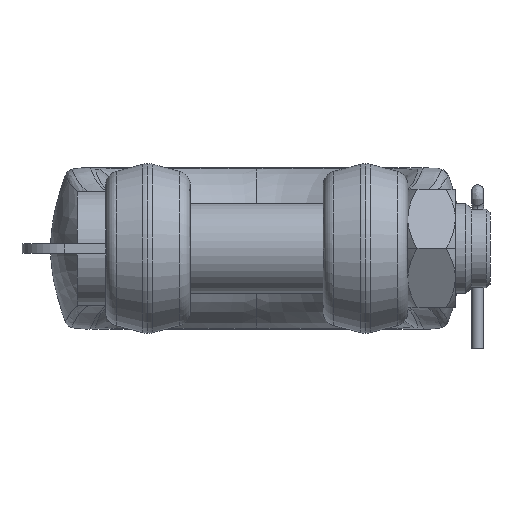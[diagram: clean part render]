
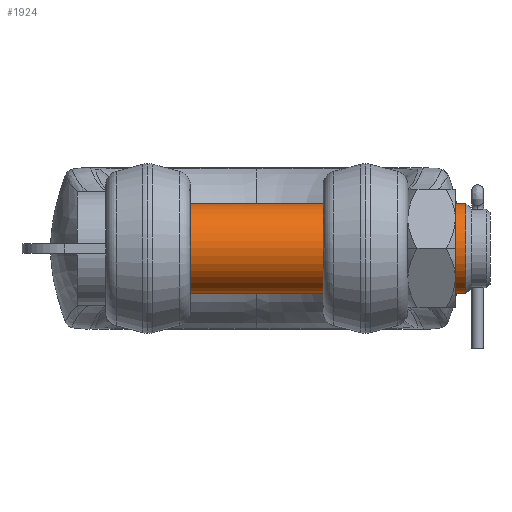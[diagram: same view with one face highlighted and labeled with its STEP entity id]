
A CAD part, front view. The second image highlights one B-rep face of the part: STEP entity #1924.
In plain terms, the highlighted cylindrical face has radius 47.5 mm (diameter 95 mm), a partial arc.
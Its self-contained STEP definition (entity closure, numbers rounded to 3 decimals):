
#1924=ADVANCED_FACE('',(#3856),#3857,.T.);
#3856=FACE_OUTER_BOUND('',#109652,.T.);
#3857=CYLINDRICAL_SURFACE('',#109653,47.5);
#109652=EDGE_LOOP('',(#114549,#114550,#114551,#114552));
#109653=AXIS2_PLACEMENT_3D('',#114553,#114554,#114555);
#114549=ORIENTED_EDGE('',*,*,#116805,.F.);
#114550=ORIENTED_EDGE('',*,*,#116797,.T.);
#114551=ORIENTED_EDGE('',*,*,#116806,.F.);
#114552=ORIENTED_EDGE('',*,*,#116803,.T.);
#114553=CARTESIAN_POINT('',(-159.0,0.,0.));
#114554=DIRECTION('',(-1.0,0.0,0.0));
#114555=DIRECTION('',(0.0,0.0,1.0));
#116797=EDGE_CURVE('',#119962,#119959,#119963,.T.);
#116803=EDGE_CURVE('',#119968,#119970,#119972,.T.);
#116805=EDGE_CURVE('',#119962,#119970,#119974,.T.);
#116806=EDGE_CURVE('',#119968,#119959,#119975,.T.);
#119959=VERTEX_POINT('',#163655);
#119962=VERTEX_POINT('',#163658);
#119963=CIRCLE('',#163659,47.5);
#119968=VERTEX_POINT('',#163664);
#119970=VERTEX_POINT('',#163667);
#119972=CIRCLE('',#163670,47.5);
#119974=LINE('',#163672,#163673);
#119975=LINE('',#163674,#163675);
#163655=CARTESIAN_POINT('',(-156.0,0.,-47.5));
#163658=CARTESIAN_POINT('',(-156.0,0.,47.5));
#163659=AXIS2_PLACEMENT_3D('',#165541,#165542,#165543);
#163664=CARTESIAN_POINT('',(220.0,0.,-47.5));
#163667=CARTESIAN_POINT('',(220.0,0.,47.5));
#163670=AXIS2_PLACEMENT_3D('',#165552,#165553,#165554);
#163672=CARTESIAN_POINT('',(32.0,0.,47.5));
#163673=VECTOR('',#165555,1.0);
#163674=CARTESIAN_POINT('',(32.0,0.,-47.5));
#163675=VECTOR('',#165556,1.0);
#165541=CARTESIAN_POINT('',(-156.0,0.,0.));
#165542=DIRECTION('',(1.0,0.0,-0.0));
#165543=DIRECTION('',(0.0,0.0,1.0));
#165552=CARTESIAN_POINT('',(220.0,0.,0.));
#165553=DIRECTION('',(-1.0,0.0,0.0));
#165554=DIRECTION('',(0.0,0.0,1.0));
#165555=DIRECTION('',(1.0,-0.0,-0.0));
#165556=DIRECTION('',(-1.0,0.0,0.0));
